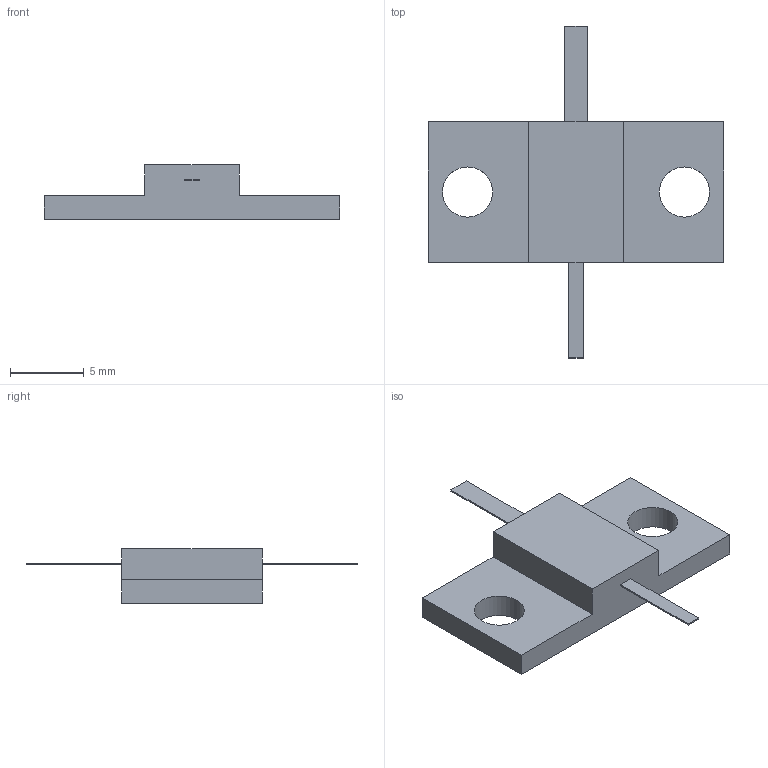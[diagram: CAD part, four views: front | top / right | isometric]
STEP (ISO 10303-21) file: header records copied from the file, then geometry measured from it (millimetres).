
FILE_DESCRIPTION(('STEP AP203'), '1');
FILE_NAME('P1-170-150-34', '', ('UNSPECIFIED'), ('UNSPECIFIED'), 'ASCON STEP Converter 1.6', 'ASCON Math Kernel', '');
FILE_SCHEMA(('CONFIG_CONTROL_DESIGN'));
Length unit declared in the file: millimetre
Bounding box: 20 x 22.5 x 3.7 mm (x, y, z)
Volume: 404.3 mm3; surface area: 574.1 mm2
Topology: 1 solids, 1 shells, 22 faces, 54 edges, 36 vertices
Faces by surface type: plane 20, cylinder 2
Full cylindrical faces by diameter (mm): 3.4 x2
Entity records: 860 total; most frequent: CARTESIAN_POINT 111, ORIENTED_EDGE 104, DIRECTION 102, EDGE_CURVE 52, LINE 48, VECTOR 48, VERTEX_POINT 36, EDGE_LOOP 30
